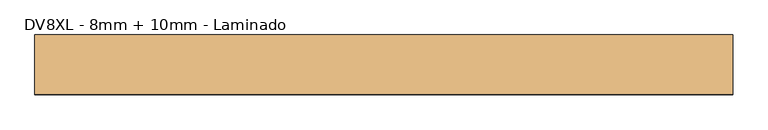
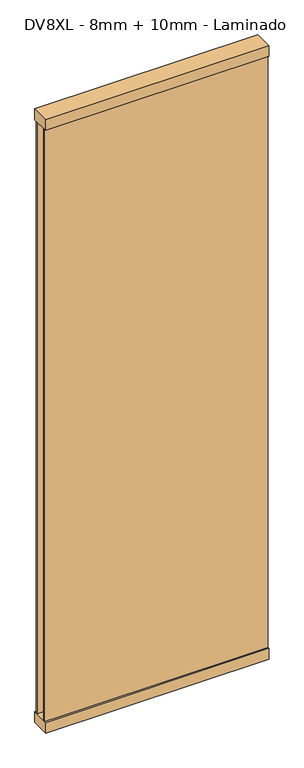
"""IFC4 building model written with IfcOpenShell, lengths in millimetres: door geometry, Mobiliário_Mobiliário de Escritório_Painel Vidro Duplo - DVDT, DVDL e DVXL (Complementar)_Marelli : DV8XL - 8mm + 10mm - Laminado."""

from ifc_helpers import new_model, si_unit, frame, origin, origin_with_axes, place, context, project, spatial, polyline, outline, extrude, source, transform, mapped, element, save


def dv8xl_8mm_10mm_laminado_3fc03e85(model_context):
    return source(origin(), model_context, "Body", "SweptSolid", [
        extrude(outline(polyline([(500.0, 42.5), (500.0, -42.5), (-500.0, -42.5), (-500.0, 42.5), (500.0, 42.5)])), origin_with_axes(), (0.0, 0.0, 1.0), 50.0),
        extrude(outline(polyline([(500.0, 42.5), (500.0, -42.5), (-500.0, -42.5), (-500.0, 42.5), (500.0, 42.5)])), frame((0.0, 0.0, 2850.0), z_axis=(0.0, 0.0, 1.0), x_axis=(1.0, 0.0, 0.0)), (0.0, 0.0, 1.0), 50.0),
        extrude(outline(polyline([(500.0, 33.1), (500.0, 25.1), (-500.0, 25.1), (-500.0, 33.1), (500.0, 33.1)])), frame((0.0, 0.0, 50.0), z_axis=(0.0, 0.0, 1.0), x_axis=(1.0, 0.0, 0.0)), (0.0, 0.0, 1.0), 2800.0),
        extrude(outline(polyline([(500.0, -35.1), (-500.0, -35.1), (-500.0, -25.1), (500.0, -25.1), (500.0, -35.1)])), frame((0.0, 0.0, 50.0), z_axis=(0.0, 0.0, 1.0), x_axis=(1.0, 0.0, 0.0)), (0.0, 0.0, 1.0), 2800.0),
    ])


if __name__ == "__main__":
    model = new_model("IFC4")
    model_context = context("Model", 3, world=origin())
    ifc_project = project(units=[si_unit("LENGTHUNIT", "METRE", prefix="MILLI")], contexts=[model_context])
    site = spatial("IfcSite", under=ifc_project)
    building = spatial("IfcBuilding", under=site)
    placement = place(None, origin())
    dv8xl_8mm_10mm_laminado_shape = dv8xl_8mm_10mm_laminado_3fc03e85(model_context)
    element("IfcDoor", 1, ObjectType="Mobiliário_Mobiliário de Escritório_Painel Vidro Duplo - DVDT, DVDL e DVXL (Complementar)_Marelli : DV8XL - 8mm + 10mm - Laminado", at=placement, inside=building, context=model_context, shape_type="MappedRepresentation", body=[
        mapped(dv8xl_8mm_10mm_laminado_shape, transform((0.0, 0.0, 0.0), x_axis=(1.0, 0.0, 0.0), y_axis=(0.0, 1.0, 0.0), z_axis=(0.0, 0.0, 1.0))),
    ])
    save(model, "model.ifc")
